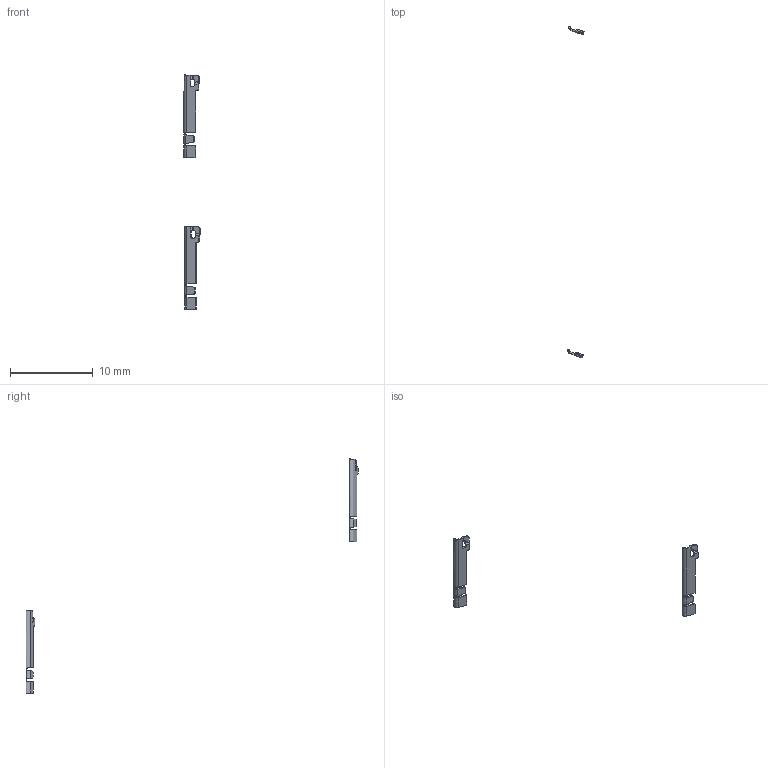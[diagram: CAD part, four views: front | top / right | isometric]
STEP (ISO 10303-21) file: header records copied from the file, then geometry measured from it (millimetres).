
FILE_DESCRIPTION(/* description */ ('Alibre Inc.'),/* implementation_level */ '2;1');
FILE_NAME(/* name */ 'export0',/* time_stamp */ '2009-10-17T10:26:11+02:00',/* author */ (''),/* organization */ (''),/* preprocessor_version */ 'ST-DEVELOPER v10',/* originating_system */ 'Alibre',/* authorisation */ '');
FILE_SCHEMA (('ALIBRE_SCHEMA','CONFIG_CONTROL_DESIGN'));
Length unit declared in the file: millimetre
Products named in the file (5): ID_1
Bounding box: 1.96 x 40.18 x 28.37 mm (x, y, z)
Volume: 6.1 mm3; surface area: 74.2 mm2
Topology: 6 solids, 6 shells, 162 faces, 396 edges, 242 vertices
Faces by surface type: bspline 162
Entity records: 11568 total; most frequent: CARTESIAN_POINT 3401, ORIENTED_EDGE 1584, DIRECTION 997, EDGE_CURVE 792, VECTOR 539, LINE 536, VERTEX_POINT 484, PERSISTANTTOPOLOGYATTRIBUTE 324
